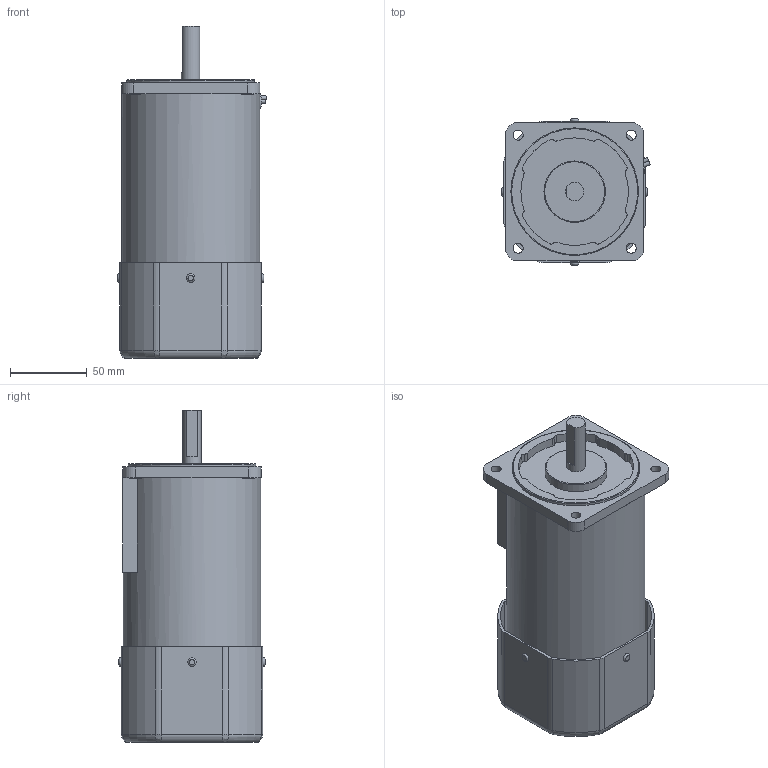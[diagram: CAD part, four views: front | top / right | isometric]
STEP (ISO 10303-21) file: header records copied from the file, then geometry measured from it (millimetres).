
FILE_DESCRIPTION((''),'2;1');
FILE_NAME('E:\2공장-도면\3D\표준형 3D(민규)\step file\K9RS120Fㅁ-B.stp','2014-11-11T10:42:29',('AHN'),(''),'Autodesk Inventor 2012','Autodesk Inventor 2012','');
FILE_SCHEMA(('CONFIG_CONTROL_DESIGN'));
Length unit declared in the file: millimetre
Products named in the file (1): K9RS120Fㅁ-B
Bounding box: 96.71 x 95 x 216 mm (x, y, z)
Volume: 1094591.6 mm3; surface area: 111523.4 mm2
Topology: 1 solids, 1 shells, 235 faces, 592 edges, 364 vertices
Faces by surface type: cylinder 119, plane 70, torus 38, bspline 8
Full cylindrical faces by diameter (mm): 6.5 x4, 8 x4, 12 x1, 40 x1, 83 x1, 90 x1
Entity records: 7636 total; most frequent: CARTESIAN_POINT 1978, DIRECTION 1217, ORIENTED_EDGE 1130, EDGE_CURVE 565, AXIS2_PLACEMENT_3D 481, VERTEX_POINT 355, EDGE_LOOP 299, VECTOR 255
